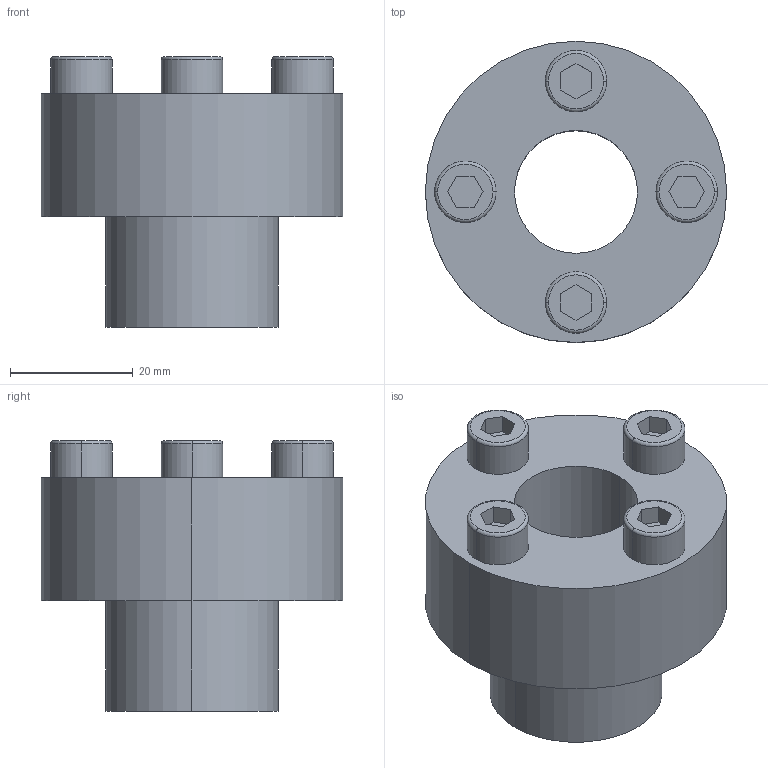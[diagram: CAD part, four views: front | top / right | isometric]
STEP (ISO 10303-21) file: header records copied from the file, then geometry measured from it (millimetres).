
FILE_DESCRIPTION (( 'STEP AP203' ), '1' );
FILE_NAME ('PL-C 20-28.STEP', '2021-10-22T08:30:04', ( '' ), ( '' ), 'SwSTEP 2.0', 'SolidWorks 2018', '' );
FILE_SCHEMA (( 'CONFIG_CONTROL_DESIGN' ));
Length unit declared in the file: millimetre
Products named in the file (1): PL-C 20-28
Bounding box: 49 x 49 x 44 mm (x, y, z)
Volume: 38478.9 mm3; surface area: 11127.3 mm2
Topology: 1 solids, 1 shells, 57 faces, 130 edges, 84 vertices
Faces by surface type: plane 35, cylinder 14, torus 8
Entity records: 1685 total; most frequent: DIRECTION 290, CARTESIAN_POINT 272, ORIENTED_EDGE 260, EDGE_CURVE 130, AXIS2_PLACEMENT_3D 102, VECTOR 86, LINE 86, VERTEX_POINT 84
